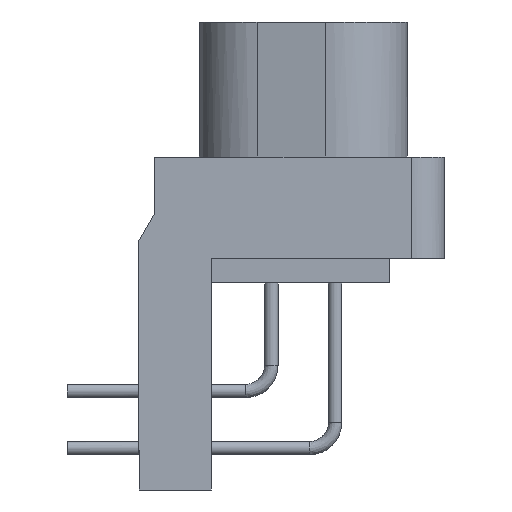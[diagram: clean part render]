
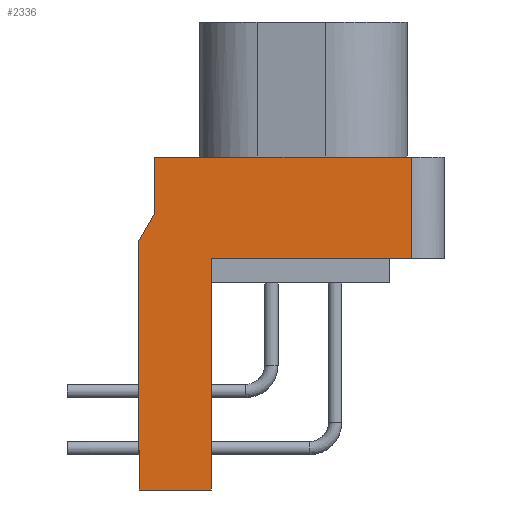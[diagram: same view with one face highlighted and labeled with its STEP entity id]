
A CAD part, left-side view. The second image highlights one B-rep face of the part: STEP entity #2336.
In plain terms, the highlighted free-form (B-spline) face has degree [1, 1] with [2, 2] control points.
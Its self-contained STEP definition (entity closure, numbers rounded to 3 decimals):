
#1925=CARTESIAN_POINT('V38',(-34.7,3.185,
   -14.3));
#1926=VERTEX_POINT('V38',#1925);
#1932=CARTESIAN_POINT('V37',(-34.7,3.185,
   -3.212));
#1933=VERTEX_POINT('V37',#1932);
#1934=CARTESIAN_POINT('E50',(-34.7,3.185,
   -3.212));
#1935=CARTESIAN_POINT('E50',(-34.7,3.185,
   -14.3));
#1936=QUASI_UNIFORM_CURVE('E50',1,(#1934,#1935),.POLYLINE_FORM.,.F.,
   .U.);
#1937=EDGE_CURVE('E50',#1933,#1926,#1936,.T.);
#1963=CARTESIAN_POINT('V31',(-34.7,2.485,
   -2.0));
#1964=VERTEX_POINT('V31',#1963);
#1965=CARTESIAN_POINT('E49',(-34.7,2.485,
   -2.0));
#1966=CARTESIAN_POINT('E49',(-34.7,3.185,
   -3.212));
#1967=QUASI_UNIFORM_CURVE('E49',1,(#1965,#1966),.POLYLINE_FORM.,.F.,
   .U.);
#1968=EDGE_CURVE('E49',#1964,#1933,#1967,.T.);
#2013=CARTESIAN_POINT('V39',(-34.7,-0.015,
   -14.3));
#2014=VERTEX_POINT('V39',#2013);
#2020=CARTESIAN_POINT('E51',(-34.7,3.185,
   -14.3));
#2021=CARTESIAN_POINT('E51',(-34.7,-0.015,
   -14.3));
#2022=QUASI_UNIFORM_CURVE('E51',1,(#2020,#2021),.POLYLINE_FORM.,.F.,
   .U.);
#2023=EDGE_CURVE('E51',#1926,#2014,#2022,.T.);
#2041=CARTESIAN_POINT('V40',(-34.7,-0.015,
   -4.0));
#2042=VERTEX_POINT('V40',#2041);
#2048=CARTESIAN_POINT('E52',(-34.7,-0.015,
   -14.3));
#2049=CARTESIAN_POINT('E52',(-34.7,-0.015,
   -4.0));
#2050=QUASI_UNIFORM_CURVE('E52',1,(#2048,#2049),.POLYLINE_FORM.,.F.,
   .U.);
#2051=EDGE_CURVE('E52',#2014,#2042,#2050,.T.);
#2282=CARTESIAN_POINT('V32',(-34.7,2.485,
   0.5));
#2283=VERTEX_POINT('V32',#2282);
#2284=CARTESIAN_POINT('E43',(-34.7,2.485,
   -2.0));
#2285=CARTESIAN_POINT('E43',(-34.7,2.485,
   0.5));
#2286=QUASI_UNIFORM_CURVE('E43',1,(#2284,#2285),.POLYLINE_FORM.,.F.,
   .U.);
#2287=EDGE_CURVE('E43',#1964,#2283,#2286,.T.);
#2305=CARTESIAN_POINT('F19',(-34.7,3.965,
   -15.115));
#2306=CARTESIAN_POINT('F19',(-34.7,-11.195,
   -15.115));
#2307=CARTESIAN_POINT('F19',(-34.7,3.965,
   0.815));
#2308=CARTESIAN_POINT('F19',(-34.7,-11.195,
   0.815));
#2309=QUASI_UNIFORM_SURFACE('F19',1,1,((#2305,#2307),(#2306,#2308))
,.PLANE_SURF.,.F.,.F.,.U.);
#2310=CARTESIAN_POINT('V35',(-34.7,-8.915,
   0.5));
#2311=VERTEX_POINT('V35',#2310);
#2312=CARTESIAN_POINT('V36',(-34.7,-8.915,
   -4.0));
#2313=VERTEX_POINT('V36',#2312);
#2314=CARTESIAN_POINT('E47',(-34.7,-8.915,
   0.5));
#2315=CARTESIAN_POINT('E47',(-34.7,-8.915,
   -4.0));
#2316=QUASI_UNIFORM_CURVE('E47',1,(#2314,#2315),.POLYLINE_FORM.,.F.,
   .U.);
#2317=EDGE_CURVE('E47',#2311,#2313,#2316,.T.);
#2318=ORIENTED_EDGE('E47',*,*,#2317,.F.);
#2319=CARTESIAN_POINT('E48',(-34.7,-8.915,
   0.5));
#2320=CARTESIAN_POINT('E48',(-34.7,2.485,
   0.5));
#2321=B_SPLINE_CURVE_WITH_KNOTS('E48',1,(#2319,#2320),
   .POLYLINE_FORM.,.F.,.U.,(2,2),(0.0,22.8),
   .UNSPECIFIED.);
#2322=EDGE_CURVE('E48',#2311,#2283,#2321,.T.);
#2323=ORIENTED_EDGE('E48',*,*,#2322,.T.);
#2324=ORIENTED_EDGE('E43',*,*,#2287,.F.);
#2325=ORIENTED_EDGE('E49',*,*,#1968,.T.);
#2326=ORIENTED_EDGE('E50',*,*,#1937,.T.);
#2327=ORIENTED_EDGE('E51',*,*,#2023,.T.);
#2328=ORIENTED_EDGE('E52',*,*,#2051,.T.);
#2329=CARTESIAN_POINT('E53',(-34.7,-0.015,
   -4.0));
#2330=CARTESIAN_POINT('E53',(-34.7,-8.915,
   -4.0));
#2331=B_SPLINE_CURVE_WITH_KNOTS('E53',1,(#2329,#2330),
   .POLYLINE_FORM.,.F.,.U.,(2,2),(0.144,1.0),
   .UNSPECIFIED.);
#2332=EDGE_CURVE('E53',#2042,#2313,#2331,.T.);
#2333=ORIENTED_EDGE('E53',*,*,#2332,.T.);
#2334=EDGE_LOOP('F19',(#2318,#2323,#2324,#2325,#2326,#2327,#2328,
   #2333));
#2335=FACE_OUTER_BOUND('F19',#2334,.T.);
#2336=ADVANCED_FACE('F19',(#2335),#2309,.T.);
